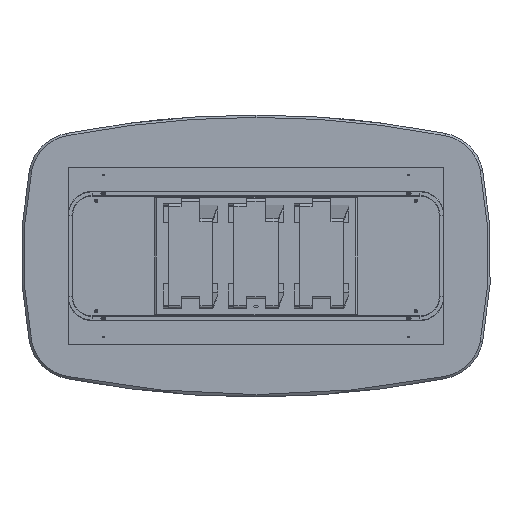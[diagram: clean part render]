
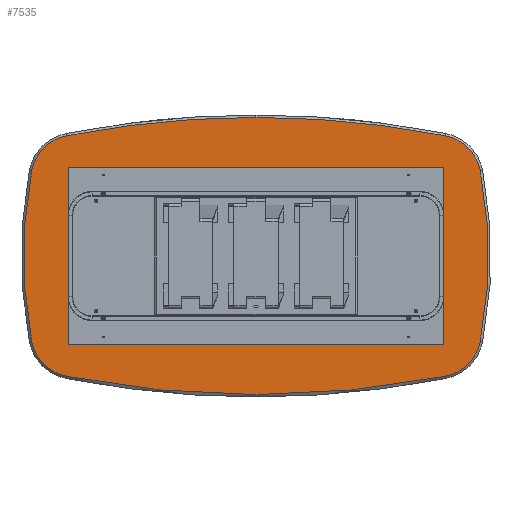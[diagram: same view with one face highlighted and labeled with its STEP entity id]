
A CAD part, front view. The second image highlights one B-rep face of the part: STEP entity #7535.
In plain terms, the highlighted planar face has unit normal (0, -1, 0).
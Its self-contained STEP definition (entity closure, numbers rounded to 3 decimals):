
#50 = CARTESIAN_POINT ( 'NONE',  ( 954.894, 0., -362.002 ) ) ;
#170 = CIRCLE ( 'NONE', #5262, 1884. ) ;
#260 = VERTEX_POINT ( 'NONE', #50 ) ;
#983 = ORIENTED_EDGE ( 'NONE', *, *, #4381, .T. ) ;
#1016 = CARTESIAN_POINT ( 'NONE',  ( -954.894, 0., 362.002 ) ) ;
#1133 = AXIS2_PLACEMENT_3D ( 'NONE', #2777, #2873, #4064 ) ;
#1319 = CARTESIAN_POINT ( 'NONE',  ( 768.435, 0., -325.495 ) ) ;
#1548 = DIRECTION ( 'NONE',  ( 0., 1., 0. ) ) ;
#1884 = CARTESIAN_POINT ( 'NONE',  ( 894., 0., 0. ) ) ;
#2371 = CIRCLE ( 'NONE', #17729, 4190. ) ;
#2574 = VERTEX_POINT ( 'NONE', #11193 ) ;
#2643 = CARTESIAN_POINT ( 'NONE',  ( -954.894, 0., -362.002 ) ) ;
#2646 = AXIS2_PLACEMENT_3D ( 'NONE', #5862, #10467, #14879 ) ;
#2777 = CARTESIAN_POINT ( 'NONE',  ( -768.435, 0., -325.495 ) ) ;
#2873 = DIRECTION ( 'NONE',  ( 0., -1., 0. ) ) ;
#3111 = CARTESIAN_POINT ( 'NONE',  ( 768.435, 0., 325.495 ) ) ;
#3300 = DIRECTION ( 'NONE',  ( 0., 0., 1. ) ) ;
#3607 = EDGE_CURVE ( 'NONE', #2574, #17022, #16028, .T. ) ;
#4064 = DIRECTION ( 'NONE',  ( 0., 0., 1. ) ) ;
#4147 = ORIENTED_EDGE ( 'NONE', *, *, #4534, .T. ) ;
#4381 = EDGE_CURVE ( 'NONE', #19454, #6578, #18322, .T. ) ;
#4410 = CARTESIAN_POINT ( 'NONE',  ( -804.935, 0., 511.956 ) ) ;
#4454 = CARTESIAN_POINT ( 'NONE',  ( -768.435, 0., 325.495 ) ) ;
#4534 = EDGE_CURVE ( 'NONE', #18874, #12397, #9801, .T. ) ;
#4783 = CARTESIAN_POINT ( 'NONE',  ( 0., 0., -3600. ) ) ;
#4870 = EDGE_LOOP ( 'NONE', ( #5689, #983, #5009, #5222, #15316, #8022, #12296, #4147, #16214 ) ) ;
#5009 = ORIENTED_EDGE ( 'NONE', *, *, #10810, .T. ) ;
#5222 = ORIENTED_EDGE ( 'NONE', *, *, #14918, .T. ) ;
#5262 = AXIS2_PLACEMENT_3D ( 'NONE', #10058, #19271, #16171 ) ;
#5310 = AXIS2_PLACEMENT_3D ( 'NONE', #4454, #16680, #9466 ) ;
#5689 = ORIENTED_EDGE ( 'NONE', *, *, #11412, .T. ) ;
#5862 = CARTESIAN_POINT ( 'NONE',  ( 0., 0., 3600. ) ) ;
#5952 = CARTESIAN_POINT ( 'NONE',  ( -447., 0., 1800. ) ) ;
#6236 = CIRCLE ( 'NONE', #1133, 190. ) ;
#6481 = DIRECTION ( 'NONE',  ( 0., 0., 1. ) ) ;
#6578 = VERTEX_POINT ( 'NONE', #17029 ) ;
#7142 = CIRCLE ( 'NONE', #19297, 1884. ) ;
#7222 = DIRECTION ( 'NONE',  ( 0., 0., 1. ) ) ;
#7405 = AXIS2_PLACEMENT_3D ( 'NONE', #3111, #18328, #3300 ) ;
#7535 = ADVANCED_FACE ( 'NONE', ( #10843 ), #15261, .F. ) ;
#7950 = DIRECTION ( 'NONE',  ( 0., -1., 0. ) ) ;
#7979 = DIRECTION ( 'NONE',  ( 0., 0., 1. ) ) ;
#8022 = ORIENTED_EDGE ( 'NONE', *, *, #19419, .T. ) ;
#8182 = AXIS2_PLACEMENT_3D ( 'NONE', #15748, #7950, #15953 ) ;
#8700 = DIRECTION ( 'NONE',  ( 0., -1., 0. ) ) ;
#9466 = DIRECTION ( 'NONE',  ( 0., 0., 1. ) ) ;
#9585 = CIRCLE ( 'NONE', #19479, 190. ) ;
#9801 = CIRCLE ( 'NONE', #5310, 190. ) ;
#10036 = CARTESIAN_POINT ( 'NONE',  ( 804.935, 0., 511.956 ) ) ;
#10058 = CARTESIAN_POINT ( 'NONE',  ( -894., 0., 0. ) ) ;
#10467 = DIRECTION ( 'NONE',  ( 0., -1., 0. ) ) ;
#10810 = EDGE_CURVE ( 'NONE', #6578, #260, #9585, .T. ) ;
#10843 = FACE_OUTER_BOUND ( 'NONE', #4870, .T. ) ;
#11067 = CIRCLE ( 'NONE', #8182, 4190. ) ;
#11193 = CARTESIAN_POINT ( 'NONE',  ( 954.894, 0., 362.002 ) ) ;
#11272 = CARTESIAN_POINT ( 'NONE',  ( -804.935, 0., -511.956 ) ) ;
#11412 = EDGE_CURVE ( 'NONE', #13145, #19454, #6236, .T. ) ;
#12052 = DIRECTION ( 'NONE',  ( 0., 0., 1. ) ) ;
#12296 = ORIENTED_EDGE ( 'NONE', *, *, #15558, .T. ) ;
#12397 = VERTEX_POINT ( 'NONE', #1016 ) ;
#12820 = AXIS2_PLACEMENT_3D ( 'NONE', #5952, #1548, #12052 ) ;
#13145 = VERTEX_POINT ( 'NONE', #2643 ) ;
#14289 = DIRECTION ( 'NONE',  ( 0., -1., 0. ) ) ;
#14469 = CARTESIAN_POINT ( 'NONE',  ( 0., 0., 590. ) ) ;
#14879 = DIRECTION ( 'NONE',  ( 0., 0., 1. ) ) ;
#14918 = EDGE_CURVE ( 'NONE', #260, #2574, #170, .T. ) ;
#15261 = PLANE ( 'NONE',  #12820 ) ;
#15316 = ORIENTED_EDGE ( 'NONE', *, *, #3607, .T. ) ;
#15558 = EDGE_CURVE ( 'NONE', #19501, #18874, #11067, .T. ) ;
#15689 = DIRECTION ( 'NONE',  ( 0., -1., 0. ) ) ;
#15748 = CARTESIAN_POINT ( 'NONE',  ( 0., 0., -3600. ) ) ;
#15953 = DIRECTION ( 'NONE',  ( 0., 0., 1. ) ) ;
#16028 = CIRCLE ( 'NONE', #7405, 190. ) ;
#16171 = DIRECTION ( 'NONE',  ( 0., 0., 1. ) ) ;
#16214 = ORIENTED_EDGE ( 'NONE', *, *, #18220, .T. ) ;
#16680 = DIRECTION ( 'NONE',  ( 0., -1., 0. ) ) ;
#17022 = VERTEX_POINT ( 'NONE', #10036 ) ;
#17029 = CARTESIAN_POINT ( 'NONE',  ( 804.935, 0., -511.956 ) ) ;
#17729 = AXIS2_PLACEMENT_3D ( 'NONE', #4783, #15689, #6481 ) ;
#18220 = EDGE_CURVE ( 'NONE', #12397, #13145, #7142, .T. ) ;
#18322 = CIRCLE ( 'NONE', #2646, 4190. ) ;
#18328 = DIRECTION ( 'NONE',  ( 0., -1., 0. ) ) ;
#18874 = VERTEX_POINT ( 'NONE', #4410 ) ;
#19271 = DIRECTION ( 'NONE',  ( 0., -1., 0. ) ) ;
#19297 = AXIS2_PLACEMENT_3D ( 'NONE', #1884, #14289, #7979 ) ;
#19419 = EDGE_CURVE ( 'NONE', #17022, #19501, #2371, .T. ) ;
#19454 = VERTEX_POINT ( 'NONE', #11272 ) ;
#19479 = AXIS2_PLACEMENT_3D ( 'NONE', #1319, #8700, #7222 ) ;
#19501 = VERTEX_POINT ( 'NONE', #14469 ) ;
